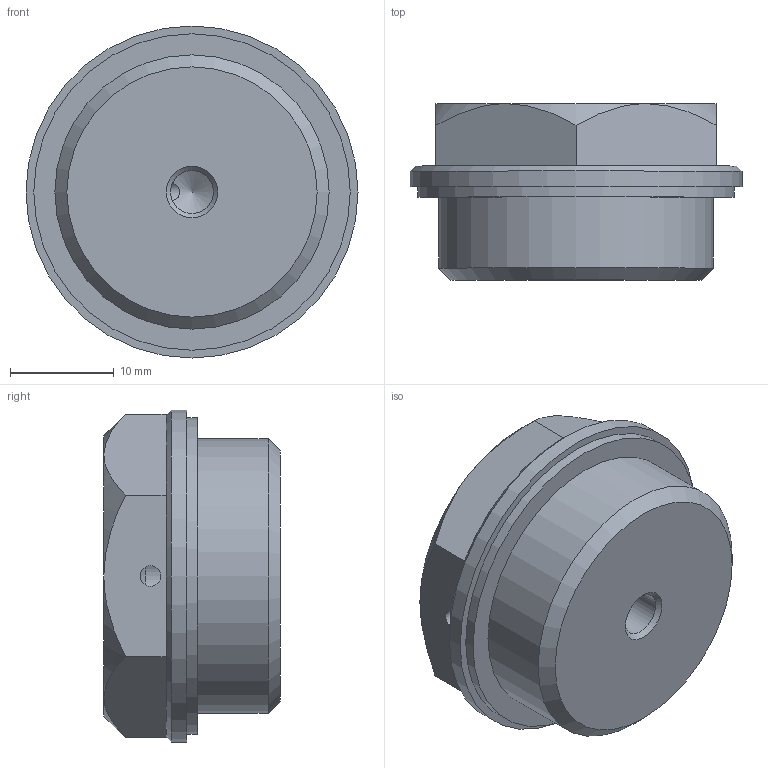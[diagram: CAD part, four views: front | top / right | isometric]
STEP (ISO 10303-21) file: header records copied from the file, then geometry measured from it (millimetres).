
FILE_DESCRIPTION( ( 'STEP AP203' ), '1' );
FILE_NAME( 'C:/Temp/Ganter_Step_05_03_2020/data/3_5/gn742/gn742_2/Threaded plug GN 742-32-G3_4-OS-2.stp', '2020-03-12T13:39:43', ( 'License CC BY-ND 4.0' ), ( 'CADENAS' ), ' ', 'PARTsolutions', ' ' );
FILE_SCHEMA( ( 'CONFIG_CONTROL_DESIGN' ) );
Length unit declared in the file: millimetre
Products named in the file (1): _Threaded plug GN 742-32-G3/4-OS-2
Bounding box: 32 x 17 x 32 mm (x, y, z)
Volume: 10198.5 mm3; surface area: 3235.2 mm2
Topology: 1 solids, 1 shells, 37 faces, 80 edges, 46 vertices
Faces by surface type: plane 22, cone 10, cylinder 5
Full cylindrical faces by diameter (mm): 2 x1, 4.134 x1, 26.441 x1, 30.5 x1, 32 x1
Entity records: 1056 total; most frequent: CARTESIAN_POINT 274, DIRECTION 158, ORIENTED_EDGE 134, AXIS2_PLACEMENT_3D 67, EDGE_CURVE 67, EDGE_LOOP 49, VERTEX_POINT 43, FACE_OUTER_BOUND 42
